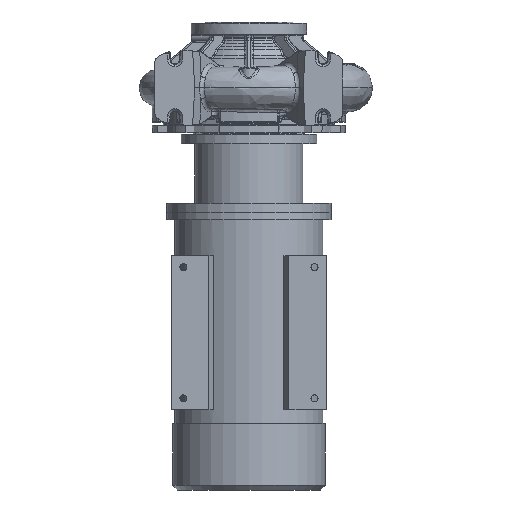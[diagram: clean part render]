
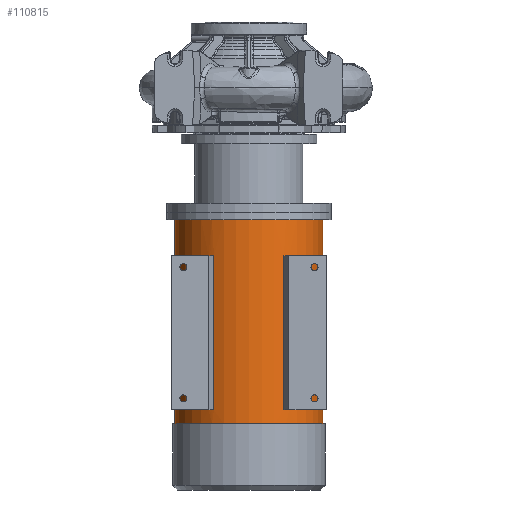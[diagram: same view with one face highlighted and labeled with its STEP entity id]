
A CAD part, front view. The second image highlights one B-rep face of the part: STEP entity #110815.
In plain terms, the highlighted cylindrical face has radius 157.5 mm (diameter 315 mm), a partial arc.
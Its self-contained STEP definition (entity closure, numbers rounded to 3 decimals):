
#534 = CIRCLE ( 'NONE', #85445, 157.5 ) ;
#3564 = DIRECTION ( 'NONE',  ( -1., 0., 0. ) ) ;
#8686 = DIRECTION ( 'NONE',  ( 0., 0., -1. ) ) ;
#10234 = CARTESIAN_POINT ( 'NONE',  ( 0., 0., -685.3 ) ) ;
#11058 = EDGE_CURVE ( 'NONE', #11617, #14526, #114478, .T. ) ;
#11416 = DIRECTION ( 'NONE',  ( 0., 0., -1. ) ) ;
#11617 = VERTEX_POINT ( 'NONE', #56072 ) ;
#12113 = EDGE_CURVE ( 'NONE', #31922, #55566, #38576, .T. ) ;
#13649 = CARTESIAN_POINT ( 'NONE',  ( 86.091, -131.889, -357.3 ) ) ;
#13991 = CARTESIAN_POINT ( 'NONE',  ( 74.479, -138.777, -685.3 ) ) ;
#14526 = VERTEX_POINT ( 'NONE', #50977 ) ;
#14930 = EDGE_CURVE ( 'NONE', #100777, #27821, #62257, .T. ) ;
#17593 = ORIENTED_EDGE ( 'NONE', *, *, #11058, .T. ) ;
#18688 = ORIENTED_EDGE ( 'NONE', *, *, #51198, .F. ) ;
#21787 = CARTESIAN_POINT ( 'NONE',  ( 157.5, 0., -714.8 ) ) ;
#21803 = FACE_OUTER_BOUND ( 'NONE', #86255, .T. ) ;
#24887 = CARTESIAN_POINT ( 'NONE',  ( -74.479, -138.777, -357.3 ) ) ;
#26718 = DIRECTION ( 'NONE',  ( 1., 0., 0. ) ) ;
#27821 = VERTEX_POINT ( 'NONE', #24887 ) ;
#28625 = DIRECTION ( 'NONE',  ( 0., 0., 1. ) ) ;
#29064 = CARTESIAN_POINT ( 'NONE',  ( 157.5, 0., -855.8 ) ) ;
#29792 = AXIS2_PLACEMENT_3D ( 'NONE', #104855, #77425, #41778 ) ;
#30127 = DIRECTION ( 'NONE',  ( 0., 0., 1. ) ) ;
#30585 = CARTESIAN_POINT ( 'NONE',  ( 0., 0., -714.8 ) ) ;
#30674 = VERTEX_POINT ( 'NONE', #98495 ) ;
#30908 = CARTESIAN_POINT ( 'NONE',  ( 86.091, -131.889, -685.3 ) ) ;
#31922 = VERTEX_POINT ( 'NONE', #89422 ) ;
#32247 = VERTEX_POINT ( 'NONE', #30908 ) ;
#34164 = ORIENTED_EDGE ( 'NONE', *, *, #43350, .T. ) ;
#34913 = AXIS2_PLACEMENT_3D ( 'NONE', #97045, #115449, #89153 ) ;
#35182 = AXIS2_PLACEMENT_3D ( 'NONE', #30585, #110093, #3564 ) ;
#35864 = CARTESIAN_POINT ( 'NONE',  ( -74.479, -138.777, -685.3 ) ) ;
#35871 = LINE ( 'NONE', #107285, #41460 ) ;
#36048 = AXIS2_PLACEMENT_3D ( 'NONE', #72769, #44208, #80623 ) ;
#37061 = VERTEX_POINT ( 'NONE', #79309 ) ;
#37540 = DIRECTION ( 'NONE',  ( 0., 0., -1. ) ) ;
#38330 = CARTESIAN_POINT ( 'NONE',  ( 0., 0., -685.3 ) ) ;
#38576 = LINE ( 'NONE', #29064, #87607 ) ;
#39628 = AXIS2_PLACEMENT_3D ( 'NONE', #10234, #8686, #26718 ) ;
#39748 = ORIENTED_EDGE ( 'NONE', *, *, #87242, .F. ) ;
#40883 = CARTESIAN_POINT ( 'NONE',  ( 86.091, -131.889, -855.8 ) ) ;
#41014 = VERTEX_POINT ( 'NONE', #13991 ) ;
#41460 = VECTOR ( 'NONE', #80260, 1000. ) ;
#41778 = DIRECTION ( 'NONE',  ( -1., 0., 0. ) ) ;
#42972 = VECTOR ( 'NONE', #76484, 1000. ) ;
#43350 = EDGE_CURVE ( 'NONE', #100777, #37061, #45352, .T. ) ;
#43503 = EDGE_CURVE ( 'NONE', #41014, #32247, #534, .T. ) ;
#43753 = CIRCLE ( 'NONE', #35182, 157.5 ) ;
#44208 = DIRECTION ( 'NONE',  ( 0., 0., 1. ) ) ;
#45352 = CIRCLE ( 'NONE', #39628, 157.5 ) ;
#47646 = ORIENTED_EDGE ( 'NONE', *, *, #88250, .T. ) ;
#50411 = ORIENTED_EDGE ( 'NONE', *, *, #81729, .T. ) ;
#50977 = CARTESIAN_POINT ( 'NONE',  ( -157.5, 0., -714.8 ) ) ;
#51198 = EDGE_CURVE ( 'NONE', #27821, #30674, #51630, .T. ) ;
#51630 = CIRCLE ( 'NONE', #77563, 157.5 ) ;
#54619 = ORIENTED_EDGE ( 'NONE', *, *, #43503, .F. ) ;
#55361 = VECTOR ( 'NONE', #111033, 1000. ) ;
#55566 = VERTEX_POINT ( 'NONE', #21787 ) ;
#56072 = CARTESIAN_POINT ( 'NONE',  ( -157.5, 0., -280.8 ) ) ;
#56381 = DIRECTION ( 'NONE',  ( 0., 0., -1. ) ) ;
#56427 = VECTOR ( 'NONE', #37540, 1000. ) ;
#57338 = EDGE_LOOP ( 'NONE', ( #104934, #34164, #39748, #18688 ) ) ;
#62257 = LINE ( 'NONE', #73992, #94479 ) ;
#62765 = ORIENTED_EDGE ( 'NONE', *, *, #112679, .T. ) ;
#64647 = DIRECTION ( 'NONE',  ( -1., 0., 0. ) ) ;
#72769 = CARTESIAN_POINT ( 'NONE',  ( 0., 0., -357.3 ) ) ;
#72811 = CARTESIAN_POINT ( 'NONE',  ( -86.091, -131.889, -855.8 ) ) ;
#73799 = ORIENTED_EDGE ( 'NONE', *, *, #12113, .F. ) ;
#73992 = CARTESIAN_POINT ( 'NONE',  ( -74.479, -138.777, -855.8 ) ) ;
#74389 = DIRECTION ( 'NONE',  ( 1., 0., 0. ) ) ;
#75233 = ORIENTED_EDGE ( 'NONE', *, *, #89285, .F. ) ;
#76484 = DIRECTION ( 'NONE',  ( 0., 0., -1. ) ) ;
#77425 = DIRECTION ( 'NONE',  ( 0., 0., -1. ) ) ;
#77563 = AXIS2_PLACEMENT_3D ( 'NONE', #102933, #56381, #74389 ) ;
#79221 = EDGE_CURVE ( 'NONE', #97052, #91714, #106635, .T. ) ;
#79309 = CARTESIAN_POINT ( 'NONE',  ( -86.091, -131.889, -685.3 ) ) ;
#80028 = CIRCLE ( 'NONE', #29792, 157.5 ) ;
#80260 = DIRECTION ( 'NONE',  ( 0., 0., 1. ) ) ;
#80623 = DIRECTION ( 'NONE',  ( -1., 0., 0. ) ) ;
#81729 = EDGE_CURVE ( 'NONE', #91714, #32247, #82009, .T. ) ;
#82009 = LINE ( 'NONE', #40883, #55361 ) ;
#85445 = AXIS2_PLACEMENT_3D ( 'NONE', #38330, #28625, #64647 ) ;
#86255 = EDGE_LOOP ( 'NONE', ( #73799, #62765, #17593, #75233 ) ) ;
#87242 = EDGE_CURVE ( 'NONE', #30674, #37061, #108273, .T. ) ;
#87607 = VECTOR ( 'NONE', #11416, 1000. ) ;
#88250 = EDGE_CURVE ( 'NONE', #41014, #97052, #35871, .T. ) ;
#88596 = EDGE_LOOP ( 'NONE', ( #54619, #47646, #90021, #50411 ) ) ;
#89153 = DIRECTION ( 'NONE',  ( -1., 0., 0. ) ) ;
#89285 = EDGE_CURVE ( 'NONE', #55566, #14526, #43753, .T. ) ;
#89422 = CARTESIAN_POINT ( 'NONE',  ( 157.5, 0., -280.8 ) ) ;
#90021 = ORIENTED_EDGE ( 'NONE', *, *, #79221, .T. ) ;
#91714 = VERTEX_POINT ( 'NONE', #13649 ) ;
#93351 = CARTESIAN_POINT ( 'NONE',  ( -157.5, 0., -855.8 ) ) ;
#94479 = VECTOR ( 'NONE', #30127, 1000. ) ;
#97045 = CARTESIAN_POINT ( 'NONE',  ( 0., 0., -855.8 ) ) ;
#97052 = VERTEX_POINT ( 'NONE', #113372 ) ;
#98495 = CARTESIAN_POINT ( 'NONE',  ( -86.091, -131.889, -357.3 ) ) ;
#100777 = VERTEX_POINT ( 'NONE', #35864 ) ;
#101686 = FACE_BOUND ( 'NONE', #88596, .T. ) ;
#102933 = CARTESIAN_POINT ( 'NONE',  ( 0., 0., -357.3 ) ) ;
#104855 = CARTESIAN_POINT ( 'NONE',  ( 0., 0., -280.8 ) ) ;
#104934 = ORIENTED_EDGE ( 'NONE', *, *, #14930, .F. ) ;
#106635 = CIRCLE ( 'NONE', #36048, 157.5 ) ;
#107285 = CARTESIAN_POINT ( 'NONE',  ( 74.479, -138.777, -855.8 ) ) ;
#108273 = LINE ( 'NONE', #72811, #56427 ) ;
#108683 = CYLINDRICAL_SURFACE ( 'NONE', #34913, 157.5 ) ;
#110093 = DIRECTION ( 'NONE',  ( 0., 0., -1. ) ) ;
#110815 = ADVANCED_FACE ( 'NONE', ( #21803, #101686, #111452 ), #108683, .T. ) ;
#111033 = DIRECTION ( 'NONE',  ( 0., 0., -1. ) ) ;
#111452 = FACE_BOUND ( 'NONE', #57338, .T. ) ;
#112679 = EDGE_CURVE ( 'NONE', #31922, #11617, #80028, .T. ) ;
#113372 = CARTESIAN_POINT ( 'NONE',  ( 74.479, -138.777, -357.3 ) ) ;
#114478 = LINE ( 'NONE', #93351, #42972 ) ;
#115449 = DIRECTION ( 'NONE',  ( 0., 0., -1. ) ) ;
